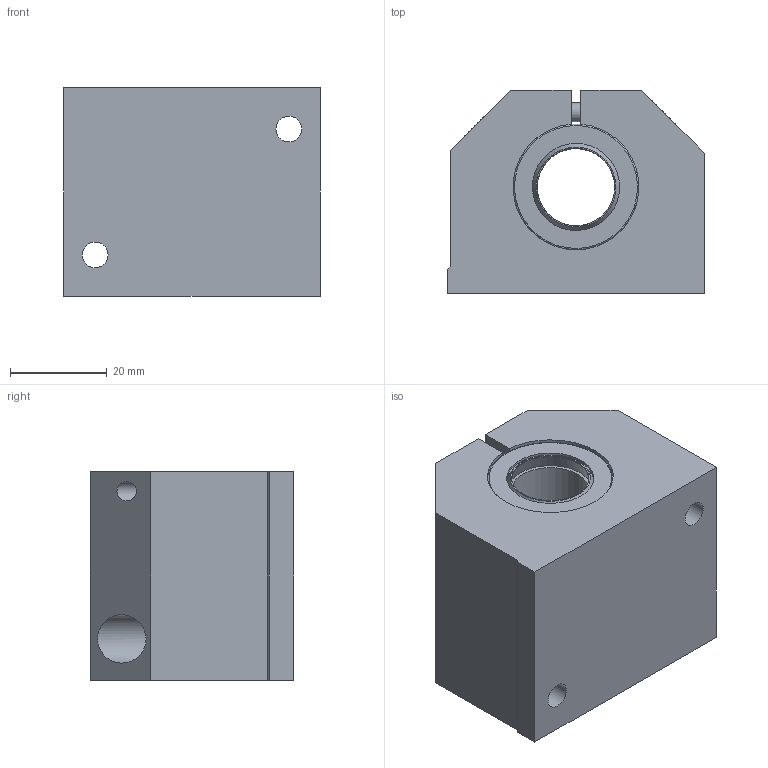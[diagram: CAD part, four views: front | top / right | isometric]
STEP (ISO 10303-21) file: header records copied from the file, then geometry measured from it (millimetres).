
FILE_DESCRIPTION(('STEP AP203'),'1');
FILE_NAME('//192.168.1.1/share/s-4 技術開発/s-4-4_CAD/s-4-4-3_見直し済み/008 修正済み/SLS(済)/SLS_TOP/SLS-16.step','2022-03-09T07:11:31',(' '),(' '),'Spatial InterOp 3D',' ',' ');
FILE_SCHEMA(('CONFIG_CONTROL_DESIGN'));
Length unit declared in the file: millimetre
Products named in the file (1): 1
Bounding box: 53 x 42 x 43 mm (x, y, z)
Volume: 73826.7 mm3; surface area: 18030.9 mm2
Topology: 1 solids, 1 shells, 91 faces, 208 edges, 131 vertices
Faces by surface type: plane 41, cylinder 35, torus 8, cone 7
Full cylindrical faces by diameter (mm): 4 x4, 4.5 x1, 5.3 x4, 7 x3, 8 x1, 10 x2, 16 x3, 18 x2, 21.5 x2, 24.9 x2
Entity records: 2328 total; most frequent: DIRECTION 414, CARTESIAN_POINT 394, ORIENTED_EDGE 304, AXIS2_PLACEMENT_3D 171, EDGE_LOOP 158, EDGE_CURVE 152, FACE_OUTER_BOUND 123, VERTEX_POINT 117
